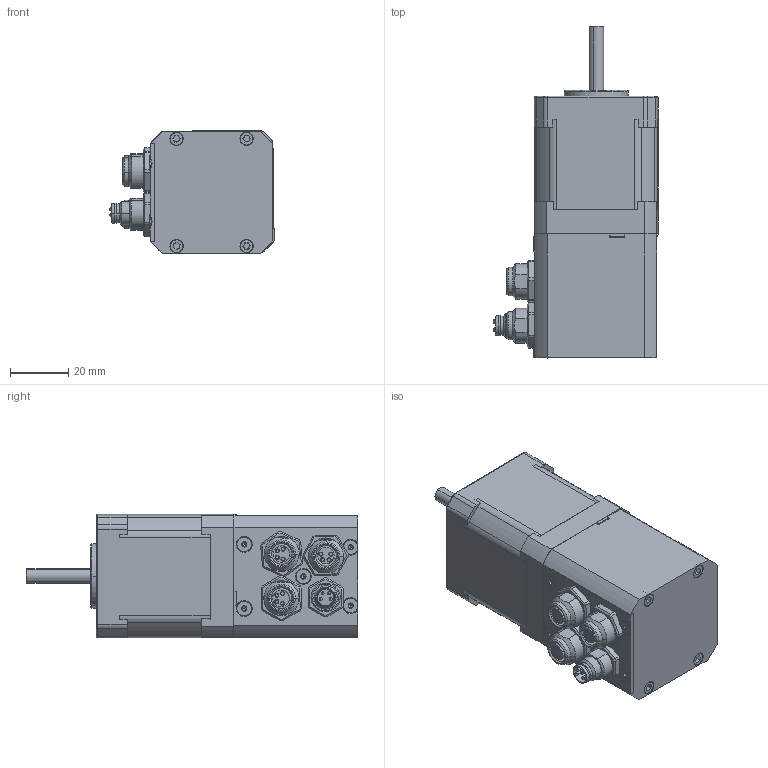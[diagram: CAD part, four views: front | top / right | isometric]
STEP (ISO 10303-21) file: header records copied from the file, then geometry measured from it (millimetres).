
FILE_DESCRIPTION (( 'STEP AP214' ), '1' );
FILE_NAME ('HDrive17-ETC.step', '2026-02-17T09:01:11', ( '' ), ( '' ), 'SwSTEP 2.0', 'SolidWorks 2025', '' );
FILE_SCHEMA (( 'AUTOMOTIVE_DESIGN' ));
Length unit declared in the file: millimetre
Products named in the file (23): 17HM19-2004S_По умолчанию; N006 Mutter 6-Kant M8-2; 42-01483.step; Inlet_V5_laser.step; N005 Mutter 6-Kant M8; S3A.step; N002 Schraube Zylinderkopf M2.5x45mm; 17099-B Blende Nema17 ETC; S4A.step; N003 Schrubae Senkkopf M2.5 x 10mm; S1A.step; Free-Models.step; HDrive_Deckel_v3 v41.step; 42-01395.step; Nema17_Stepper_bottom_assembly.step; Nema17_Stepper_bottom_assembly v47 v2.step; connector_board.step; nema17_steppermotor; 42-01487.step; HDrive17-ETC; 117005-B; S2A.step; 42-01396.step
Assembly tree (35 placements, depth 5):
  HDrive17-ETC
    17099-B Blende Nema17 ETC
    117005-B
    N003 Schrubae Senkkopf M2.5 x 10mm  x5
    N002 Schraube Zylinderkopf M2.5x45mm  x4
    connector_board.step
      S3A.step
        42-01395.step
      S4A.step
        42-01396.step
      S2A.step
        42-01395.step
      S1A.step
        42-01395.step
      Free-Models.step
        42-01487.step
        42-01483.step  x3
    nema17_steppermotor
      Nema17_Stepper_bottom_assembly v47 v2.step
        Nema17_Stepper_bottom_assembly.step
          HDrive_Deckel_v3 v41.step
          Inlet_V5_laser.step
      17HM19-2004S_По умолчанию
    N005 Mutter 6-Kant M8  x3
    N006 Mutter 6-Kant M8-2
Bounding box: 56.33 x 113.8 x 42.42 mm (x, y, z)
Volume: 75049.3 mm3; surface area: 52874 mm2
Topology: 37 solids, 39 shells, 2431 faces, 6137 edges, 3821 vertices
Faces by surface type: plane 984, cylinder 968, cone 251, torus 152, bspline 76
Entity records: 50941 total; most frequent: CARTESIAN_POINT 18178, ORIENTED_EDGE 6840, DIRECTION 6518, EDGE_CURVE 3420, AXIS2_PLACEMENT_3D 2356, VERTEX_POINT 2163, VECTOR 1806, LINE 1806
